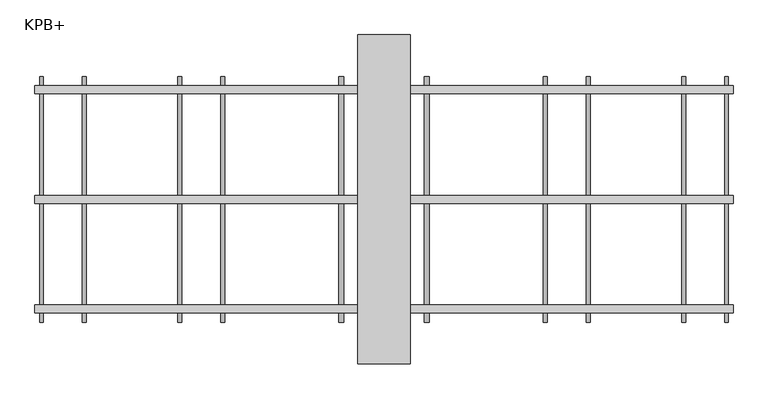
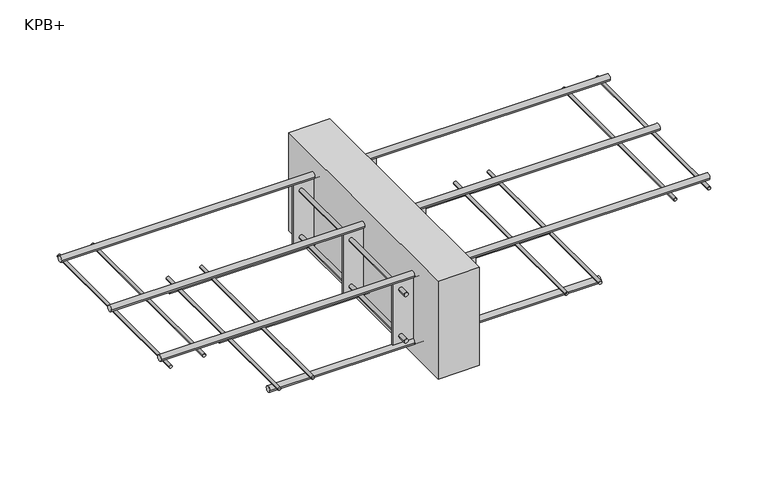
"""IFC4 building model written with IfcOpenShell, lengths in millimetres: fastener geometry, ACINOXplus_Typenreihe_K : KPB+."""

from ifc_helpers import new_model, si_unit, point, frame, frame_2d, origin, place, context, project, spatial, polyline, circle_curve, trimmed, segment, composite_curve, outline, extrude, source, transform, mapped, element, save


def kpb_371f8e3e(model_context):
    return source(origin(), model_context, "Body", "SweptSolid", [
        extrude(outline(polyline([(40.0, 250.0), (40.0, -250.0), (-40.0, -250.0), (-40.0, 250.0), (40.0, 250.0)])), frame((0.0, 0.0, -200.0), z_axis=(0.0, 0.0, 1.0), x_axis=(1.0, 0.0, 0.0)), (0.0, 0.0, 1.0), 200.0),
        extrude(outline(polyline([(80.0, 1.5), (80.0, -1.5), (-80.0, -1.5), (-80.0, 1.5), (80.0, 1.5)])), frame((0.0, 0.0, -167.0), z_axis=(0.0, 0.0, 1.0), x_axis=(1.0, 0.0, 0.0)), (0.0, 0.0, 1.0), 125.0),
        extrude(outline(polyline([(80.0, -165.1666667), (80.0, -168.1666667), (-80.0, -168.1666667), (-80.0, -165.1666667), (80.0, -165.1666667)])), frame((0.0, 0.0, -167.0), z_axis=(0.0, 0.0, 1.0), x_axis=(1.0, 0.0, 0.0)), (0.0, 0.0, 1.0), 125.0),
        extrude(outline(polyline([(80.0, 168.1666667), (80.0, 165.1666667), (-80.0, 165.1666667), (-80.0, 168.1666667), (80.0, 168.1666667)])), frame((0.0, 0.0, -167.0), z_axis=(0.0, 0.0, 1.0), x_axis=(1.0, 0.0, 0.0)), (0.0, 0.0, 1.0), 125.0),
        extrude(outline(composite_curve([segment(trimmed(circle_curve(frame_2d((-152.0, -65.0)), 4.0), [point((-152.0, -69.0))], [point((-152.0, -61.0))], False, "CARTESIAN"), True, "CONTINUOUS"), segment(trimmed(circle_curve(frame_2d((-152.0, -65.0)), 4.0), [point((-152.0, -61.0))], [point((-152.0, -69.0))], False, "CARTESIAN"), True, "CONTINUOUS")], self_intersect=False)), frame((0.0, 168.1666667, 0.0), z_axis=(0.0, 1.0, 0.0), x_axis=(0.0, 0.0, 1.0)), (0.0, 0.0, 1.0), 18.5),
        extrude(outline(composite_curve([segment(trimmed(circle_curve(frame_2d((-152.0, -65.0)), 4.0), [point((-152.0, -61.0))], [point((-152.0, -69.0))], False, "CARTESIAN"), True, "CONTINUOUS"), segment(trimmed(circle_curve(frame_2d((-152.0, -65.0)), 4.0), [point((-152.0, -69.0))], [point((-152.0, -61.0))], False, "CARTESIAN"), True, "CONTINUOUS")], self_intersect=False)), frame((0.0, -186.6666667, 0.0), z_axis=(0.0, 1.0, 0.0), x_axis=(0.0, 0.0, 1.0)), (0.0, 0.0, 1.0), 18.5),
        extrude(outline(composite_curve([segment(trimmed(circle_curve(frame_2d((-152.0, -65.0)), 4.0), [point((-152.0, -69.0))], [point((-152.0, -61.0))], False, "CARTESIAN"), True, "CONTINUOUS"), segment(trimmed(circle_curve(frame_2d((-152.0, -65.0)), 4.0), [point((-152.0, -61.0))], [point((-152.0, -69.0))], False, "CARTESIAN"), True, "CONTINUOUS")], self_intersect=False)), frame((0.0, -165.1666667, 0.0), z_axis=(0.0, 1.0, 0.0), x_axis=(0.0, 0.0, 1.0)), (0.0, 0.0, 1.0), 163.6666667),
        extrude(outline(composite_curve([segment(trimmed(circle_curve(frame_2d((-152.0, -65.0)), 4.0), [point((-152.0, -69.0))], [point((-152.0, -61.0))], False, "CARTESIAN"), True, "CONTINUOUS"), segment(trimmed(circle_curve(frame_2d((-152.0, -65.0)), 4.0), [point((-152.0, -61.0))], [point((-152.0, -69.0))], False, "CARTESIAN"), True, "CONTINUOUS")], self_intersect=False)), frame((0.0, 1.5, 0.0), z_axis=(0.0, 1.0, 0.0), x_axis=(0.0, 0.0, 1.0)), (0.0, 0.0, 1.0), 163.6666667),
        extrude(outline(composite_curve([segment(trimmed(circle_curve(frame_2d((-152.0, 65.0)), 4.0), [point((-152.0, 61.0))], [point((-152.0, 69.0))], False, "CARTESIAN"), True, "CONTINUOUS"), segment(trimmed(circle_curve(frame_2d((-152.0, 65.0)), 4.0), [point((-152.0, 69.0))], [point((-152.0, 61.0))], False, "CARTESIAN"), True, "CONTINUOUS")], self_intersect=False)), frame((0.0, 168.1666667, 0.0), z_axis=(0.0, 1.0, 0.0), x_axis=(0.0, 0.0, 1.0)), (0.0, 0.0, 1.0), 18.5),
        extrude(outline(composite_curve([segment(trimmed(circle_curve(frame_2d((-152.0, 65.0)), 4.0), [point((-152.0, 69.0))], [point((-152.0, 61.0))], False, "CARTESIAN"), True, "CONTINUOUS"), segment(trimmed(circle_curve(frame_2d((-152.0, 65.0)), 4.0), [point((-152.0, 61.0))], [point((-152.0, 69.0))], False, "CARTESIAN"), True, "CONTINUOUS")], self_intersect=False)), frame((0.0, -186.6666667, 0.0), z_axis=(0.0, 1.0, 0.0), x_axis=(0.0, 0.0, 1.0)), (0.0, 0.0, 1.0), 18.5),
        extrude(outline(composite_curve([segment(trimmed(circle_curve(frame_2d((-152.0, 65.0)), 4.0), [point((-152.0, 61.0))], [point((-152.0, 69.0))], False, "CARTESIAN"), True, "CONTINUOUS"), segment(trimmed(circle_curve(frame_2d((-152.0, 65.0)), 4.0), [point((-152.0, 69.0))], [point((-152.0, 61.0))], False, "CARTESIAN"), True, "CONTINUOUS")], self_intersect=False)), frame((0.0, -165.1666667, 0.0), z_axis=(0.0, 1.0, 0.0), x_axis=(0.0, 0.0, 1.0)), (0.0, 0.0, 1.0), 163.6666667),
        extrude(outline(composite_curve([segment(trimmed(circle_curve(frame_2d((-152.0, 65.0)), 4.0), [point((-152.0, 61.0))], [point((-152.0, 69.0))], False, "CARTESIAN"), True, "CONTINUOUS"), segment(trimmed(circle_curve(frame_2d((-152.0, 65.0)), 4.0), [point((-152.0, 69.0))], [point((-152.0, 61.0))], False, "CARTESIAN"), True, "CONTINUOUS")], self_intersect=False)), frame((0.0, 1.5, 0.0), z_axis=(0.0, 1.0, 0.0), x_axis=(0.0, 0.0, 1.0)), (0.0, 0.0, 1.0), 163.6666667),
        extrude(outline(composite_curve([segment(trimmed(circle_curve(frame_2d((-57.0, -65.0)), 4.0), [point((-57.0, -69.0))], [point((-57.0, -61.0))], False, "CARTESIAN"), True, "CONTINUOUS"), segment(trimmed(circle_curve(frame_2d((-57.0, -65.0)), 4.0), [point((-57.0, -61.0))], [point((-57.0, -69.0))], False, "CARTESIAN"), True, "CONTINUOUS")], self_intersect=False)), frame((0.0, 168.1666667, 0.0), z_axis=(0.0, 1.0, 0.0), x_axis=(0.0, 0.0, 1.0)), (0.0, 0.0, 1.0), 18.5),
        extrude(outline(composite_curve([segment(trimmed(circle_curve(frame_2d((-57.0, -65.0)), 4.0), [point((-57.0, -61.0))], [point((-57.0, -69.0))], False, "CARTESIAN"), True, "CONTINUOUS"), segment(trimmed(circle_curve(frame_2d((-57.0, -65.0)), 4.0), [point((-57.0, -69.0))], [point((-57.0, -61.0))], False, "CARTESIAN"), True, "CONTINUOUS")], self_intersect=False)), frame((0.0, -186.6666667, 0.0), z_axis=(0.0, 1.0, 0.0), x_axis=(0.0, 0.0, 1.0)), (0.0, 0.0, 1.0), 18.5),
        extrude(outline(composite_curve([segment(trimmed(circle_curve(frame_2d((-57.0, -65.0)), 4.0), [point((-57.0, -69.0))], [point((-57.0, -61.0))], False, "CARTESIAN"), True, "CONTINUOUS"), segment(trimmed(circle_curve(frame_2d((-57.0, -65.0)), 4.0), [point((-57.0, -61.0))], [point((-57.0, -69.0))], False, "CARTESIAN"), True, "CONTINUOUS")], self_intersect=False)), frame((0.0, -165.1666667, 0.0), z_axis=(0.0, 1.0, 0.0), x_axis=(0.0, 0.0, 1.0)), (0.0, 0.0, 1.0), 163.6666667),
        extrude(outline(composite_curve([segment(trimmed(circle_curve(frame_2d((-57.0, -65.0)), 4.0), [point((-57.0, -69.0))], [point((-57.0, -61.0))], False, "CARTESIAN"), True, "CONTINUOUS"), segment(trimmed(circle_curve(frame_2d((-57.0, -65.0)), 4.0), [point((-57.0, -61.0))], [point((-57.0, -69.0))], False, "CARTESIAN"), True, "CONTINUOUS")], self_intersect=False)), frame((0.0, 1.5, 0.0), z_axis=(0.0, 1.0, 0.0), x_axis=(0.0, 0.0, 1.0)), (0.0, 0.0, 1.0), 163.6666667),
        extrude(outline(composite_curve([segment(trimmed(circle_curve(frame_2d((-57.0, 65.0)), 4.0), [point((-57.0, 61.0))], [point((-57.0, 69.0))], False, "CARTESIAN"), True, "CONTINUOUS"), segment(trimmed(circle_curve(frame_2d((-57.0, 65.0)), 4.0), [point((-57.0, 69.0))], [point((-57.0, 61.0))], False, "CARTESIAN"), True, "CONTINUOUS")], self_intersect=False)), frame((0.0, 168.1666667, 0.0), z_axis=(0.0, 1.0, 0.0), x_axis=(0.0, 0.0, 1.0)), (0.0, 0.0, 1.0), 18.5),
        extrude(outline(composite_curve([segment(trimmed(circle_curve(frame_2d((-57.0, 65.0)), 4.0), [point((-57.0, 69.0))], [point((-57.0, 61.0))], False, "CARTESIAN"), True, "CONTINUOUS"), segment(trimmed(circle_curve(frame_2d((-57.0, 65.0)), 4.0), [point((-57.0, 61.0))], [point((-57.0, 69.0))], False, "CARTESIAN"), True, "CONTINUOUS")], self_intersect=False)), frame((0.0, -186.6666667, 0.0), z_axis=(0.0, 1.0, 0.0), x_axis=(0.0, 0.0, 1.0)), (0.0, 0.0, 1.0), 18.5),
        extrude(outline(composite_curve([segment(trimmed(circle_curve(frame_2d((-57.0, 65.0)), 4.0), [point((-57.0, 61.0))], [point((-57.0, 69.0))], False, "CARTESIAN"), True, "CONTINUOUS"), segment(trimmed(circle_curve(frame_2d((-57.0, 65.0)), 4.0), [point((-57.0, 69.0))], [point((-57.0, 61.0))], False, "CARTESIAN"), True, "CONTINUOUS")], self_intersect=False)), frame((0.0, -165.1666667, 0.0), z_axis=(0.0, 1.0, 0.0), x_axis=(0.0, 0.0, 1.0)), (0.0, 0.0, 1.0), 163.6666667),
        extrude(outline(composite_curve([segment(trimmed(circle_curve(frame_2d((-57.0, 65.0)), 4.0), [point((-57.0, 61.0))], [point((-57.0, 69.0))], False, "CARTESIAN"), True, "CONTINUOUS"), segment(trimmed(circle_curve(frame_2d((-57.0, 65.0)), 4.0), [point((-57.0, 69.0))], [point((-57.0, 61.0))], False, "CARTESIAN"), True, "CONTINUOUS")], self_intersect=False)), frame((0.0, 1.5, 0.0), z_axis=(0.0, 1.0, 0.0), x_axis=(0.0, 0.0, 1.0)), (0.0, 0.0, 1.0), 163.6666667),
        extrude(outline(composite_curve([segment(trimmed(circle_curve(frame_2d((0.0, -173.0)), 6.0), [point((-6.0, -173.0))], [point((6.0, -173.0))], False, "CARTESIAN"), True, "CONTINUOUS"), segment(trimmed(circle_curve(frame_2d((0.0, -173.0)), 6.0), [point((6.0, -173.0))], [point((-6.0, -173.0))], False, "CARTESIAN"), True, "CONTINUOUS")], self_intersect=False)), frame((-320.0, 0.0, 0.0), z_axis=(1.0, 0.0, 0.0), x_axis=(0.0, 1.0, 0.0)), (0.0, 0.0, 1.0), 640.0),
        extrude(outline(composite_curve([segment(trimmed(circle_curve(frame_2d((166.6666667, -173.0)), 6.0), [point((160.6666667, -173.0))], [point((172.6666667, -173.0))], False, "CARTESIAN"), True, "CONTINUOUS"), segment(trimmed(circle_curve(frame_2d((166.6666667, -173.0)), 6.0), [point((172.6666667, -173.0))], [point((160.6666667, -173.0))], False, "CARTESIAN"), True, "CONTINUOUS")], self_intersect=False)), frame((-320.0, 0.0, 0.0), z_axis=(1.0, 0.0, 0.0), x_axis=(0.0, 1.0, 0.0)), (0.0, 0.0, 1.0), 640.0),
        extrude(outline(composite_curve([segment(trimmed(circle_curve(frame_2d((-166.6666667, -173.0)), 6.0), [point((-172.6666667, -173.0))], [point((-160.6666667, -173.0))], False, "CARTESIAN"), True, "CONTINUOUS"), segment(trimmed(circle_curve(frame_2d((-166.6666667, -173.0)), 6.0), [point((-160.6666667, -173.0))], [point((-172.6666667, -173.0))], False, "CARTESIAN"), True, "CONTINUOUS")], self_intersect=False)), frame((-320.0, 0.0, 0.0), z_axis=(1.0, 0.0, 0.0), x_axis=(0.0, 1.0, 0.0)), (0.0, 0.0, 1.0), 640.0),
        extrude(outline(composite_curve([segment(trimmed(circle_curve(frame_2d((0.0, -36.0)), 6.0), [point((-6.0, -36.0))], [point((6.0, -36.0))], False, "CARTESIAN"), True, "CONTINUOUS"), segment(trimmed(circle_curve(frame_2d((0.0, -36.0)), 6.0), [point((6.0, -36.0))], [point((-6.0, -36.0))], False, "CARTESIAN"), True, "CONTINUOUS")], self_intersect=False)), frame((-530.0, 0.0, 0.0), z_axis=(1.0, 0.0, 0.0), x_axis=(0.0, 1.0, 0.0)), (0.0, 0.0, 1.0), 1060.0),
        extrude(outline(composite_curve([segment(trimmed(circle_curve(frame_2d((166.6666667, -36.0)), 6.0), [point((160.6666667, -36.0))], [point((172.6666667, -36.0))], False, "CARTESIAN"), True, "CONTINUOUS"), segment(trimmed(circle_curve(frame_2d((166.6666667, -36.0)), 6.0), [point((172.6666667, -36.0))], [point((160.6666667, -36.0))], False, "CARTESIAN"), True, "CONTINUOUS")], self_intersect=False)), frame((-530.0, 0.0, 0.0), z_axis=(1.0, 0.0, 0.0), x_axis=(0.0, 1.0, 0.0)), (0.0, 0.0, 1.0), 1060.0),
        extrude(outline(composite_curve([segment(trimmed(circle_curve(frame_2d((-166.6666667, -36.0)), 6.0), [point((-172.6666667, -36.0))], [point((-160.6666667, -36.0))], False, "CARTESIAN"), True, "CONTINUOUS"), segment(trimmed(circle_curve(frame_2d((-166.6666667, -36.0)), 6.0), [point((-160.6666667, -36.0))], [point((-172.6666667, -36.0))], False, "CARTESIAN"), True, "CONTINUOUS")], self_intersect=False)), frame((-530.0, 0.0, 0.0), z_axis=(1.0, 0.0, 0.0), x_axis=(0.0, 1.0, 0.0)), (0.0, 0.0, 1.0), 1060.0),
        extrude(outline(composite_curve([segment(trimmed(circle_curve(frame_2d((-164.0, -310.0)), 3.0), [point((-164.0, -307.0))], [point((-164.0, -313.0))], False, "CARTESIAN"), True, "CONTINUOUS"), segment(trimmed(circle_curve(frame_2d((-164.0, -310.0)), 3.0), [point((-164.0, -313.0))], [point((-164.0, -307.0))], False, "CARTESIAN"), True, "CONTINUOUS")], self_intersect=False)), frame((0.0, -186.6666667, 0.0), z_axis=(0.0, 1.0, 0.0), x_axis=(0.0, 0.0, 1.0)), (0.0, 0.0, 1.0), 373.3333333),
        extrude(outline(composite_curve([segment(trimmed(circle_curve(frame_2d((-164.0, -245.0)), 3.0), [point((-164.0, -242.0))], [point((-164.0, -248.0))], False, "CARTESIAN"), True, "CONTINUOUS"), segment(trimmed(circle_curve(frame_2d((-164.0, -245.0)), 3.0), [point((-164.0, -248.0))], [point((-164.0, -242.0))], False, "CARTESIAN"), True, "CONTINUOUS")], self_intersect=False)), frame((0.0, -186.6666667, 0.0), z_axis=(0.0, 1.0, 0.0), x_axis=(0.0, 0.0, 1.0)), (0.0, 0.0, 1.0), 373.3333333),
        extrude(outline(composite_curve([segment(trimmed(circle_curve(frame_2d((-164.0, 245.0)), 3.0), [point((-164.0, 248.0))], [point((-164.0, 242.0))], False, "CARTESIAN"), True, "CONTINUOUS"), segment(trimmed(circle_curve(frame_2d((-164.0, 245.0)), 3.0), [point((-164.0, 242.0))], [point((-164.0, 248.0))], False, "CARTESIAN"), True, "CONTINUOUS")], self_intersect=False)), frame((0.0, -186.6666667, 0.0), z_axis=(0.0, 1.0, 0.0), x_axis=(0.0, 0.0, 1.0)), (0.0, 0.0, 1.0), 373.3333333),
        extrude(outline(composite_curve([segment(trimmed(circle_curve(frame_2d((-164.0, 310.0)), 3.0), [point((-164.0, 313.0))], [point((-164.0, 307.0))], False, "CARTESIAN"), True, "CONTINUOUS"), segment(trimmed(circle_curve(frame_2d((-164.0, 310.0)), 3.0), [point((-164.0, 307.0))], [point((-164.0, 313.0))], False, "CARTESIAN"), True, "CONTINUOUS")], self_intersect=False)), frame((0.0, -186.6666667, 0.0), z_axis=(0.0, 1.0, 0.0), x_axis=(0.0, 0.0, 1.0)), (0.0, 0.0, 1.0), 373.3333333),
        extrude(outline(composite_curve([segment(trimmed(circle_curve(frame_2d((-45.0, 455.0)), 3.0), [point((-45.0, 458.0))], [point((-45.0, 452.0))], False, "CARTESIAN"), True, "CONTINUOUS"), segment(trimmed(circle_curve(frame_2d((-45.0, 455.0)), 3.0), [point((-45.0, 452.0))], [point((-45.0, 458.0))], False, "CARTESIAN"), True, "CONTINUOUS")], self_intersect=False)), frame((0.0, -186.6666667, 0.0), z_axis=(0.0, 1.0, 0.0), x_axis=(0.0, 0.0, 1.0)), (0.0, 0.0, 1.0), 373.3333333),
        extrude(outline(composite_curve([segment(trimmed(circle_curve(frame_2d((-45.0, 520.0)), 3.0), [point((-45.0, 523.0))], [point((-45.0, 517.0))], False, "CARTESIAN"), True, "CONTINUOUS"), segment(trimmed(circle_curve(frame_2d((-45.0, 520.0)), 3.0), [point((-45.0, 517.0))], [point((-45.0, 523.0))], False, "CARTESIAN"), True, "CONTINUOUS")], self_intersect=False)), frame((0.0, -186.6666667, 0.0), z_axis=(0.0, 1.0, 0.0), x_axis=(0.0, 0.0, 1.0)), (0.0, 0.0, 1.0), 373.3333333),
        extrude(outline(composite_curve([segment(trimmed(circle_curve(frame_2d((-45.0, -520.0)), 3.0), [point((-45.0, -517.0))], [point((-45.0, -523.0))], False, "CARTESIAN"), True, "CONTINUOUS"), segment(trimmed(circle_curve(frame_2d((-45.0, -520.0)), 3.0), [point((-45.0, -523.0))], [point((-45.0, -517.0))], False, "CARTESIAN"), True, "CONTINUOUS")], self_intersect=False)), frame((0.0, -186.6666667, 0.0), z_axis=(0.0, 1.0, 0.0), x_axis=(0.0, 0.0, 1.0)), (0.0, 0.0, 1.0), 373.3333333),
        extrude(outline(composite_curve([segment(trimmed(circle_curve(frame_2d((-45.0, -455.0)), 3.0), [point((-45.0, -452.0))], [point((-45.0, -458.0))], False, "CARTESIAN"), True, "CONTINUOUS"), segment(trimmed(circle_curve(frame_2d((-45.0, -455.0)), 3.0), [point((-45.0, -458.0))], [point((-45.0, -452.0))], False, "CARTESIAN"), True, "CONTINUOUS")], self_intersect=False)), frame((0.0, -186.6666667, 0.0), z_axis=(0.0, 1.0, 0.0), x_axis=(0.0, 0.0, 1.0)), (0.0, 0.0, 1.0), 373.3333333),
    ])


if __name__ == "__main__":
    model = new_model("IFC4")
    model_context = context("Model", 3, world=origin())
    ifc_project = project(units=[si_unit("LENGTHUNIT", "METRE", prefix="MILLI")], contexts=[model_context])
    site = spatial("IfcSite", under=ifc_project)
    building = spatial("IfcBuilding", under=site)
    placement = place(None, origin())
    kpb_shape = kpb_371f8e3e(model_context)
    element("IfcFastener", 1, ObjectType="ACINOXplus_Typenreihe_K : KPB+", at=placement, inside=building, context=model_context, shape_type="MappedRepresentation", body=[
        mapped(kpb_shape, transform((0.0, 0.0, 0.0), x_axis=(1.0, 0.0, 0.0), y_axis=(0.0, 1.0, 0.0), z_axis=(0.0, 0.0, 1.0))),
    ])
    save(model, "model.ifc")
